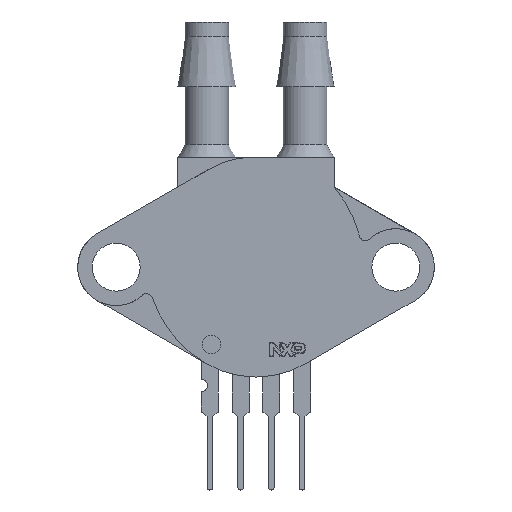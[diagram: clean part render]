
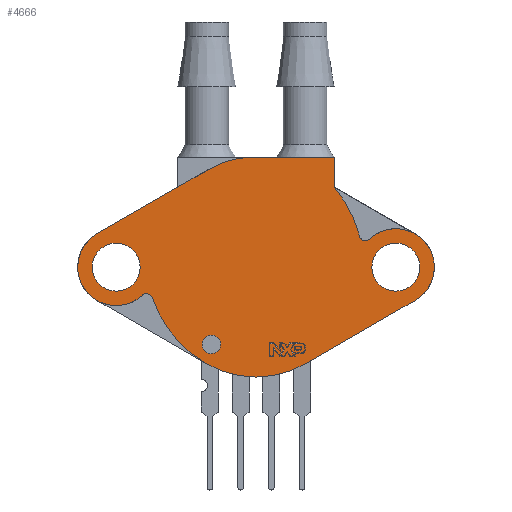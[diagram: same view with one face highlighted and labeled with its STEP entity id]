
A CAD part, front view. The second image highlights one B-rep face of the part: STEP entity #4666.
In plain terms, the highlighted planar face has unit normal (0, -1, 0) as drawn and (0, 0, 1) by its records, which use the part's own axes.
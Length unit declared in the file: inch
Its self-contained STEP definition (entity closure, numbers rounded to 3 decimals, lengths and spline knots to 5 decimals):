
#206=PLANE('',#5045);
#359=FACE_BOUND('',#747,.T.);
#360=FACE_BOUND('',#748,.T.);
#460=FACE_OUTER_BOUND('',#746,.T.);
#746=EDGE_LOOP('',(#3617,#3618,#3619,#3620,#3621,#3622,#3623,#3624,#3625,
#3626,#3627,#3628));
#747=EDGE_LOOP('',(#3629));
#748=EDGE_LOOP('',(#3630));
#1085=LINE('',#6935,#1570);
#1089=LINE('',#6947,#1574);
#1091=LINE('',#6951,#1576);
#1095=LINE('',#6960,#1580);
#1570=VECTOR('',#5726,0.4127);
#1574=VECTOR('',#5740,0.09769);
#1576=VECTOR('',#5744,0.26711);
#1580=VECTOR('',#5754,0.42481);
#1970=CIRCLE('',#4986,0.078);
#1974=CIRCLE('',#4991,0.078);
#1978=CIRCLE('',#4996,0.125);
#2001=CIRCLE('',#5026,0.125);
#2003=CIRCLE('',#5029,0.4);
#2004=CIRCLE('',#5031,0.32018);
#2005=CIRCLE('',#5034,0.02);
#2006=CIRCLE('',#5036,0.4);
#2007=CIRCLE('',#5040,0.275);
#2009=CIRCLE('',#5044,0.02);
#2143=VERTEX_POINT('',#6769);
#2150=VERTEX_POINT('',#6784);
#2157=VERTEX_POINT('',#6799);
#2158=VERTEX_POINT('',#6800);
#2202=VERTEX_POINT('',#6905);
#2206=VERTEX_POINT('',#6914);
#2209=VERTEX_POINT('',#6921);
#2210=VERTEX_POINT('',#6923);
#2212=VERTEX_POINT('',#6929);
#2213=VERTEX_POINT('',#6937);
#2214=VERTEX_POINT('',#6941);
#2215=VERTEX_POINT('',#6945);
#2216=VERTEX_POINT('',#6949);
#2217=VERTEX_POINT('',#6953);
#2649=EDGE_CURVE('',#2143,#2143,#1970,.T.);
#2656=EDGE_CURVE('',#2150,#2150,#1974,.T.);
#2663=EDGE_CURVE('',#2157,#2158,#1978,.T.);
#2723=EDGE_CURVE('',#2202,#2206,#2001,.T.);
#2726=EDGE_CURVE('',#2209,#2210,#2003,.T.);
#2730=EDGE_CURVE('',#2209,#2212,#2004,.T.);
#2733=EDGE_CURVE('',#2212,#2202,#1085,.T.);
#2735=EDGE_CURVE('',#2213,#2206,#2005,.T.);
#2737=EDGE_CURVE('',#2214,#2213,#2006,.T.);
#2739=EDGE_CURVE('',#2214,#2215,#1089,.T.);
#2741=EDGE_CURVE('',#2215,#2216,#1091,.T.);
#2743=EDGE_CURVE('',#2216,#2217,#2007,.T.);
#2746=EDGE_CURVE('',#2217,#2157,#1095,.T.);
#2748=EDGE_CURVE('',#2210,#2158,#2009,.T.);
#3617=ORIENTED_EDGE('',*,*,#2726,.F.);
#3618=ORIENTED_EDGE('',*,*,#2730,.T.);
#3619=ORIENTED_EDGE('',*,*,#2733,.T.);
#3620=ORIENTED_EDGE('',*,*,#2723,.T.);
#3621=ORIENTED_EDGE('',*,*,#2735,.F.);
#3622=ORIENTED_EDGE('',*,*,#2737,.F.);
#3623=ORIENTED_EDGE('',*,*,#2739,.T.);
#3624=ORIENTED_EDGE('',*,*,#2741,.T.);
#3625=ORIENTED_EDGE('',*,*,#2743,.T.);
#3626=ORIENTED_EDGE('',*,*,#2746,.T.);
#3627=ORIENTED_EDGE('',*,*,#2663,.T.);
#3628=ORIENTED_EDGE('',*,*,#2748,.F.);
#3629=ORIENTED_EDGE('',*,*,#2656,.F.);
#3630=ORIENTED_EDGE('',*,*,#2649,.F.);
#4666=ADVANCED_FACE('',(#460,#359,#360),#206,.T.);
#4986=AXIS2_PLACEMENT_3D('',#6770,#5583,#5584);
#4991=AXIS2_PLACEMENT_3D('',#6785,#5596,#5597);
#4996=AXIS2_PLACEMENT_3D('',#6801,#5609,#5610);
#5026=AXIS2_PLACEMENT_3D('',#6916,#5706,#5707);
#5029=AXIS2_PLACEMENT_3D('',#6924,#5713,#5714);
#5031=AXIS2_PLACEMENT_3D('',#6931,#5720,#5721);
#5034=AXIS2_PLACEMENT_3D('',#6939,#5730,#5731);
#5036=AXIS2_PLACEMENT_3D('',#6943,#5735,#5736);
#5040=AXIS2_PLACEMENT_3D('',#6955,#5748,#5749);
#5044=AXIS2_PLACEMENT_3D('',#6963,#5759,#5760);
#5045=AXIS2_PLACEMENT_3D('',#6964,#5761,#5762);
#5583=DIRECTION('center_axis',(0.,0.,1.));
#5584=DIRECTION('ref_axis',(1.,0.,0.));
#5596=DIRECTION('center_axis',(0.,0.,1.));
#5597=DIRECTION('ref_axis',(1.,0.,0.));
#5609=DIRECTION('center_axis',(0.,0.,1.));
#5610=DIRECTION('ref_axis',(1.,0.,0.));
#5706=DIRECTION('center_axis',(0.,0.,1.));
#5707=DIRECTION('ref_axis',(1.,0.,0.));
#5713=DIRECTION('center_axis',(0.,0.,-1.));
#5714=DIRECTION('ref_axis',(1.,0.,0.));
#5720=DIRECTION('center_axis',(0.,0.,1.));
#5721=DIRECTION('ref_axis',(1.,0.,0.));
#5726=DIRECTION('',(0.866,0.5,0.));
#5730=DIRECTION('center_axis',(0.,0.,1.));
#5731=DIRECTION('ref_axis',(1.,0.,0.));
#5735=DIRECTION('center_axis',(0.,0.,-1.));
#5736=DIRECTION('ref_axis',(1.,0.,0.));
#5740=DIRECTION('',(0.,1.,0.));
#5744=DIRECTION('',(-1.,0.,0.));
#5748=DIRECTION('center_axis',(0.,0.,1.));
#5749=DIRECTION('ref_axis',(1.,0.,0.));
#5754=DIRECTION('',(-0.866,-0.5,0.));
#5759=DIRECTION('center_axis',(0.,0.,1.));
#5760=DIRECTION('ref_axis',(1.,0.,0.));
#5761=DIRECTION('center_axis',(0.,0.,1.));
#5762=DIRECTION('ref_axis',(1.,0.,0.));
#6769=CARTESIAN_POINT('',(0.377,0.725,0.21));
#6770=CARTESIAN_POINT('Origin',(0.455,0.725,0.21));
#6784=CARTESIAN_POINT('',(-0.533,0.725,0.21));
#6785=CARTESIAN_POINT('Origin',(-0.455,0.725,0.21));
#6799=CARTESIAN_POINT('',(-0.5175,0.83325,0.21));
#6800=CARTESIAN_POINT('',(-0.37021,0.63315,0.21));
#6801=CARTESIAN_POINT('Origin',(-0.455,0.725,0.21));
#6905=CARTESIAN_POINT('',(0.5175,0.61675,0.21));
#6914=CARTESIAN_POINT('',(0.36971,0.81638,0.21));
#6916=CARTESIAN_POINT('Origin',(0.455,0.725,0.21));
#6921=CARTESIAN_POINT('',(-0.16009,0.4104,0.21));
#6923=CARTESIAN_POINT('',(-0.33776,0.62504,0.21));
#6924=CARTESIAN_POINT('Origin',(0.03991,0.75681,0.21));
#6929=CARTESIAN_POINT('',(0.16009,0.4104,0.21));
#6931=CARTESIAN_POINT('Origin',(0.,0.68768,
0.21));
#6935=CARTESIAN_POINT('',(-0.13768,0.23848,0.21));
#6937=CARTESIAN_POINT('',(0.33668,0.82605,0.21));
#6939=CARTESIAN_POINT('Origin',(0.35606,0.831,0.21));
#6941=CARTESIAN_POINT('',(0.255,0.98481,0.21));
#6943=CARTESIAN_POINT('Origin',(-0.05087,0.72704,0.21));
#6945=CARTESIAN_POINT('',(0.255,1.0825,0.21));
#6947=CARTESIAN_POINT('',(0.255,0.,0.21));
#6949=CARTESIAN_POINT('',(-0.01211,1.0825,0.21));
#6951=CARTESIAN_POINT('',(0.,1.0825,0.21));
#6953=CARTESIAN_POINT('',(-0.14961,1.04566,0.21));
#6955=CARTESIAN_POINT('Origin',(-0.01211,0.8075,0.21));
#6960=CARTESIAN_POINT('',(-0.49018,0.84902,0.21));
#6963=CARTESIAN_POINT('Origin',(-0.35665,0.61845,0.21));
#6964=CARTESIAN_POINT('Origin',(0.,0.,0.21));
